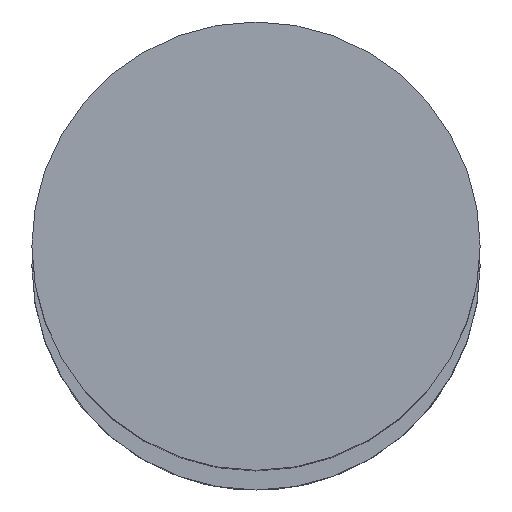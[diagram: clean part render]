
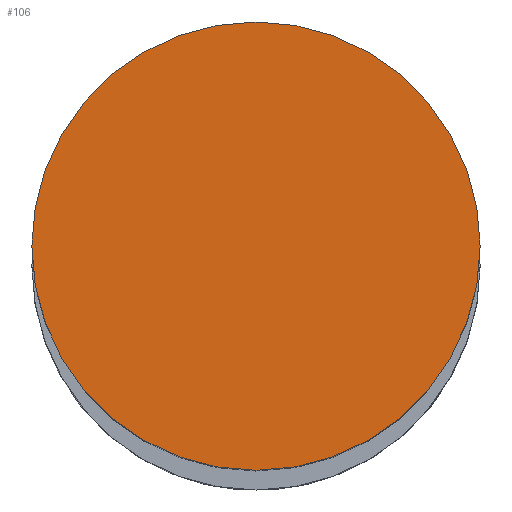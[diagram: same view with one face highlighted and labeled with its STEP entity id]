
A CAD part, top view. The second image highlights one B-rep face of the part: STEP entity #106.
In plain terms, the highlighted planar face has unit normal (0, 0, 1).
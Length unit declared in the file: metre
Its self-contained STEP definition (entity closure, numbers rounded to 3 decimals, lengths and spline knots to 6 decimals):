
#106=ADVANCED_FACE('0:129',(#209),#210,.T.);
#209=FACE_OUTER_BOUND('',#310,.T.);
#210=PLANE('',#311);
#310=EDGE_LOOP('',(#507,#508));
#311=AXIS2_PLACEMENT_3D('',#509,#510,#511);
#507=ORIENTED_EDGE('',*,*,#632,.F.);
#508=ORIENTED_EDGE('',*,*,#627,.F.);
#509=CARTESIAN_POINT('',(0.,0.,0.33));
#510=DIRECTION('',(0.0,0.0,1.0));
#511=DIRECTION('',(1.0,0.0,0.0));
#627=EDGE_CURVE('',#757,#759,#760,.F.);
#632=EDGE_CURVE('',#759,#757,#765,.F.);
#757=VERTEX_POINT('',#914);
#759=VERTEX_POINT('',#917);
#760=CIRCLE('',#918,0.008);
#765=CIRCLE('',#924,0.008);
#914=CARTESIAN_POINT('',(0.00789,0.000133,0.33));
#917=CARTESIAN_POINT('',(-0.00811,0.000133,0.33));
#918=AXIS2_PLACEMENT_3D('',#1061,#1062,#1063);
#924=AXIS2_PLACEMENT_3D('',#1068,#1069,#1070);
#1061=CARTESIAN_POINT('',(-0.00011,0.000133,0.33));
#1062=DIRECTION('',(0.0,0.0,1.0));
#1063=DIRECTION('',(1.0,0.0,0.0));
#1068=CARTESIAN_POINT('',(-0.00011,0.000133,0.33));
#1069=DIRECTION('',(0.0,0.0,1.0));
#1070=DIRECTION('',(1.0,0.0,0.0));
